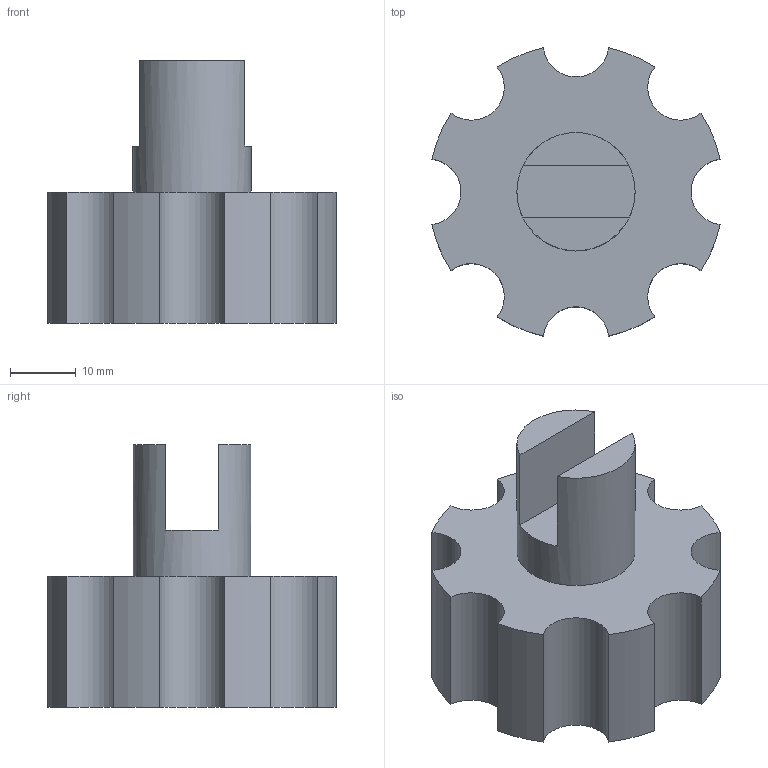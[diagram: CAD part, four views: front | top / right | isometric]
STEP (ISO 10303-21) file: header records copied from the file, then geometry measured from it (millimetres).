
FILE_DESCRIPTION(('STEP AP203'), '1');
FILE_NAME('áàðàøåê äëÿ íàñòðîéêè', '', ('UNSPECIFIED'), ('UNSPECIFIED'), 'ASCON STEP Converter 1.3', 'ASCON Math Kernel', '');
FILE_SCHEMA(('CONFIG_CONTROL_DESIGN'));
Length unit declared in the file: millimetre
Bounding box: 43.89 x 43.89 x 40 mm (x, y, z)
Volume: 29103.1 mm3; surface area: 7476.1 mm2
Topology: 1 solids, 1 shells, 24 faces, 63 edges, 42 vertices
Faces by surface type: cylinder 17, plane 7
Full cylindrical faces by diameter (mm): 18 x1
Entity records: 996 total; most frequent: DIRECTION 150, CARTESIAN_POINT 129, ORIENTED_EDGE 124, AXIS2_PLACEMENT_3D 63, EDGE_CURVE 62, VERTEX_POINT 42, CIRCLE 38, EDGE_LOOP 26
